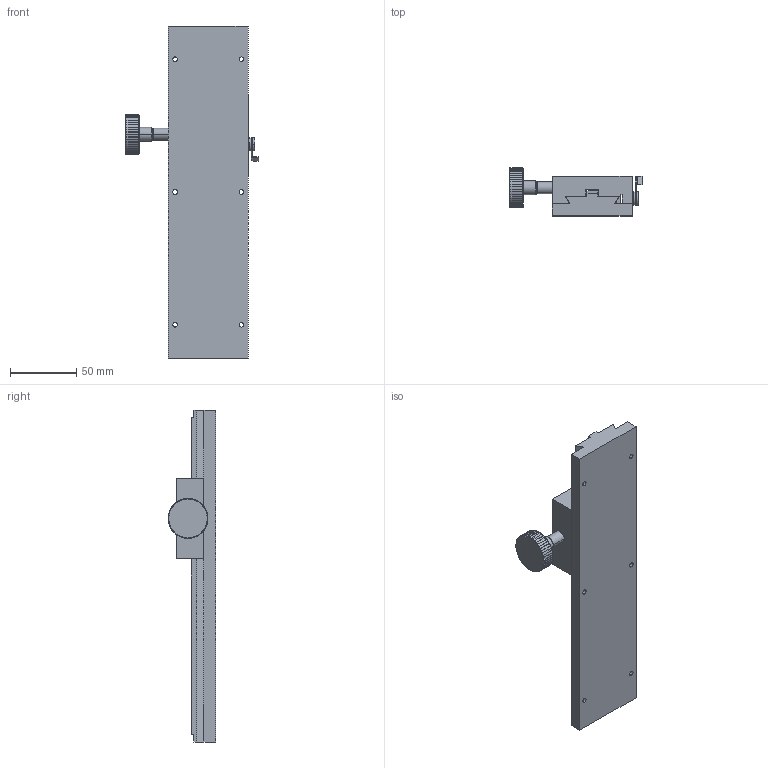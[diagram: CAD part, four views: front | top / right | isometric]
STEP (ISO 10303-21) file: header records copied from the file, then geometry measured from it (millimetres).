
FILE_DESCRIPTION (( 'STEP AP214' ), '1' );
FILE_NAME ('PT-DN60-250.STEP', '2022-08-27T08:22:30', ( '' ), ( '' ), 'SwSTEP 2.0', 'SolidWorks 2017', '' );
FILE_SCHEMA (( 'AUTOMOTIVE_DESIGN' ));
Length unit declared in the file: millimetre
Products named in the file (1): PT-DN60-250
Bounding box: 100.5 x 36 x 250 mm (x, y, z)
Surface area: 58239.4 mm2 (no closed solid volume)
Topology: 0 solids, 7 shells, 265 faces, 853 edges, 580 vertices
Faces by surface type: cylinder 208, plane 48, cone 8, bspline 1
Entity records: 11372 total; most frequent: CARTESIAN_POINT 3963, ORIENTED_EDGE 1552, DIRECTION 1470, EDGE_CURVE 853, VERTEX_POINT 580, AXIS2_PLACEMENT_3D 548, VECTOR 374, LINE 374
